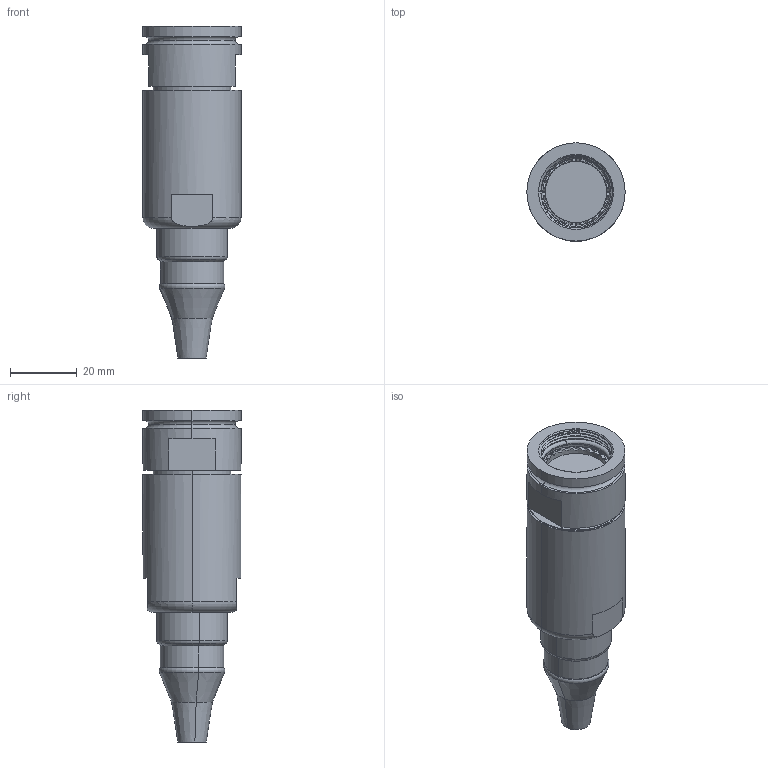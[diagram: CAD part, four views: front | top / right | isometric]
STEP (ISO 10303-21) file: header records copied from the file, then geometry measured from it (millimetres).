
FILE_DESCRIPTION (( 'STEP AP214' ), '1' );
FILE_NAME ('Q38SHELL-STX-15-XXXX-HX.STEP', '2025-09-09T16:08:33', ( '' ), ( '' ), 'SwSTEP 2.0', 'SolidWorks 2024', '' );
FILE_SCHEMA (( 'AUTOMOTIVE_DESIGN' ));
Length unit declared in the file: millimetre
Products named in the file (1): Q38SHELL-STX-15-XXXX-HX
Bounding box: 29.54 x 29.54 x 99.78 mm (x, y, z)
Volume: 44173.8 mm3; surface area: 12022.4 mm2
Topology: 2 solids, 2 shells, 197 faces, 510 edges, 330 vertices
Faces by surface type: plane 121, cylinder 37, cone 20, torus 16, bspline 3
Entity records: 6970 total; most frequent: CARTESIAN_POINT 2265, ORIENTED_EDGE 1020, DIRECTION 1004, EDGE_CURVE 510, AXIS2_PLACEMENT_3D 419, VERTEX_POINT 330, CIRCLE 224, EDGE_LOOP 212
